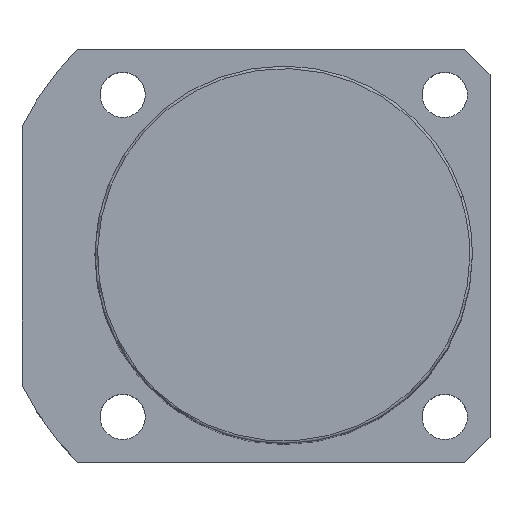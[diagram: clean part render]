
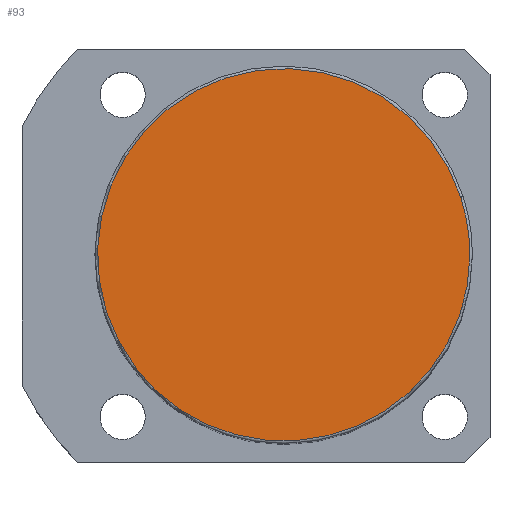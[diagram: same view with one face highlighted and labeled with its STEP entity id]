
A CAD part, top view. The second image highlights one B-rep face of the part: STEP entity #93.
In plain terms, the highlighted planar face has unit normal (0, 0, 1).
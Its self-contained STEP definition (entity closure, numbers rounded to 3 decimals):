
#16=CARTESIAN_POINT('',(35.189,11.434,138.0));
#17=VERTEX_POINT('',#16);
#45=CARTESIAN_POINT('',(-35.189,-11.434,138.0));
#46=VERTEX_POINT('',#45);
#54=CARTESIAN_POINT('',(0.0,0.0,138.0));
#55=DIRECTION('',(0.0,0.0,1.0));
#56=DIRECTION('',(1.0,0.0,0.0));
#57=AXIS2_PLACEMENT_3D('',#54,#55,#56);
#58=CIRCLE('',#57,37.0);
#59=EDGE_CURVE('no 890',#17,#46,#58,.T.);
#69=CARTESIAN_POINT('',(37.0,0.0,138.0));
#70=VERTEX_POINT('',#69);
#71=CARTESIAN_POINT('',(0.0,0.0,138.0));
#72=DIRECTION('',(0.0,0.0,1.0));
#73=DIRECTION('',(1.0,0.0,0.0));
#74=AXIS2_PLACEMENT_3D('',#71,#72,#73);
#75=CIRCLE('',#74,37.0);
#76=EDGE_CURVE('no 899',#70,#17,#75,.T.);
#77=ORIENTED_EDGE('',*,*,#76,.T.);
#78=ORIENTED_EDGE('',*,*,#59,.T.);
#79=CARTESIAN_POINT('',(0.0,0.0,138.0));
#80=DIRECTION('',(0.0,0.0,1.0));
#81=DIRECTION('',(1.0,0.0,0.0));
#82=AXIS2_PLACEMENT_3D('',#79,#80,#81);
#83=CIRCLE('',#82,37.0);
#84=EDGE_CURVE('no 905',#46,#70,#83,.T.);
#85=ORIENTED_EDGE('',*,*,#84,.T.);
#86=EDGE_LOOP('',(#77,#78,#85));
#87=FACE_OUTER_BOUND('',#86,.T.);
#88=CARTESIAN_POINT('',(0.0,0.0,138.0));
#89=DIRECTION('',(0.0,0.0,1.0));
#90=DIRECTION('',(1.0,0.0,0.0));
#91=AXIS2_PLACEMENT_3D('',#88,#89,#90);
#92=PLANE('',#91);
#93=ADVANCED_FACE('no 892',(#87),#92,.T.);
